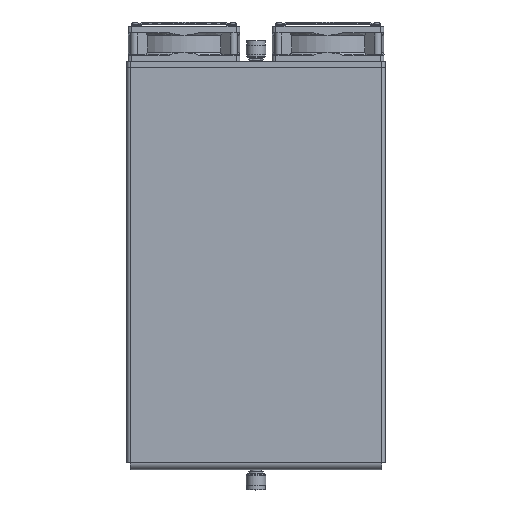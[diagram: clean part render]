
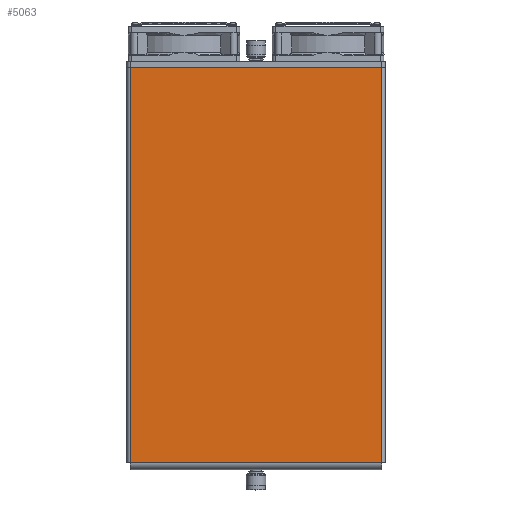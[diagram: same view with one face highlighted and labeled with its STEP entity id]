
A CAD part, top view. The second image highlights one B-rep face of the part: STEP entity #5063.
In plain terms, the highlighted planar face has unit normal (0, 0, 1).
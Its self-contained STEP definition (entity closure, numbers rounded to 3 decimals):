
#5063=ADVANCED_FACE('',(#21016),#21018,.T.);
#21016=FACE_BOUND('',#21017,.T.);
#21017=EDGE_LOOP('',(#38612,#38613,#38614,#38615));
#21018=PLANE('',#21019);
#21019=AXIS2_PLACEMENT_3D('',#21020,#21021,#21022);
#21020=CARTESIAN_POINT('',(0.,0.,121.5));
#21021=DIRECTION('',(0.,0.,1.));
#21022=DIRECTION('',(0.,-1.,0.));
#38612=ORIENTED_EDGE('',*,*,#46988,.T.);
#38613=ORIENTED_EDGE('',*,*,#46999,.T.);
#38614=ORIENTED_EDGE('',*,*,#47000,.T.);
#38615=ORIENTED_EDGE('',*,*,#47001,.T.);
#46988=EDGE_CURVE('',#52074,#52072,#52075,.T.);
#46999=EDGE_CURVE('',#52072,#52091,#52092,.T.);
#47000=EDGE_CURVE('',#52091,#52093,#52094,.T.);
#47001=EDGE_CURVE('',#52093,#52074,#52095,.T.);
#52072=VERTEX_POINT('',#61409);
#52074=VERTEX_POINT('',#61414);
#52075=LINE('',#61415,#61416);
#52091=VERTEX_POINT('',#61455);
#52092=LINE('',#61456,#61457);
#52093=VERTEX_POINT('',#61459);
#52094=LINE('',#61460,#61461);
#52095=LINE('',#61463,#61464);
#61409=CARTESIAN_POINT('',(135.,212.5,121.5));
#61414=CARTESIAN_POINT('',(135.,-212.5,121.5));
#61415=CARTESIAN_POINT('',(135.,-212.5,121.5));
#61416=VECTOR('',#61417,1.);
#61417=DIRECTION('',(0.,1.,0.));
#61455=CARTESIAN_POINT('',(-135.,212.5,121.5));
#61456=CARTESIAN_POINT('',(135.,212.5,121.5));
#61457=VECTOR('',#61458,1.);
#61458=DIRECTION('',(-1.,0.,0.));
#61459=CARTESIAN_POINT('',(-135.,-212.5,121.5));
#61460=CARTESIAN_POINT('',(-135.,212.5,121.5));
#61461=VECTOR('',#61462,1.);
#61462=DIRECTION('',(0.,-1.,0.));
#61463=CARTESIAN_POINT('',(-135.,-212.5,121.5));
#61464=VECTOR('',#61465,1.);
#61465=DIRECTION('',(1.,0.,0.));
